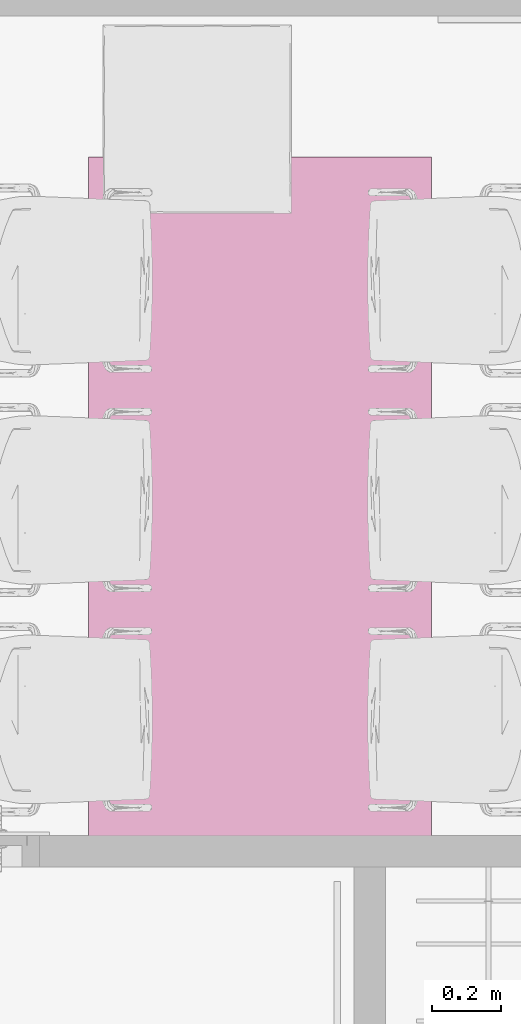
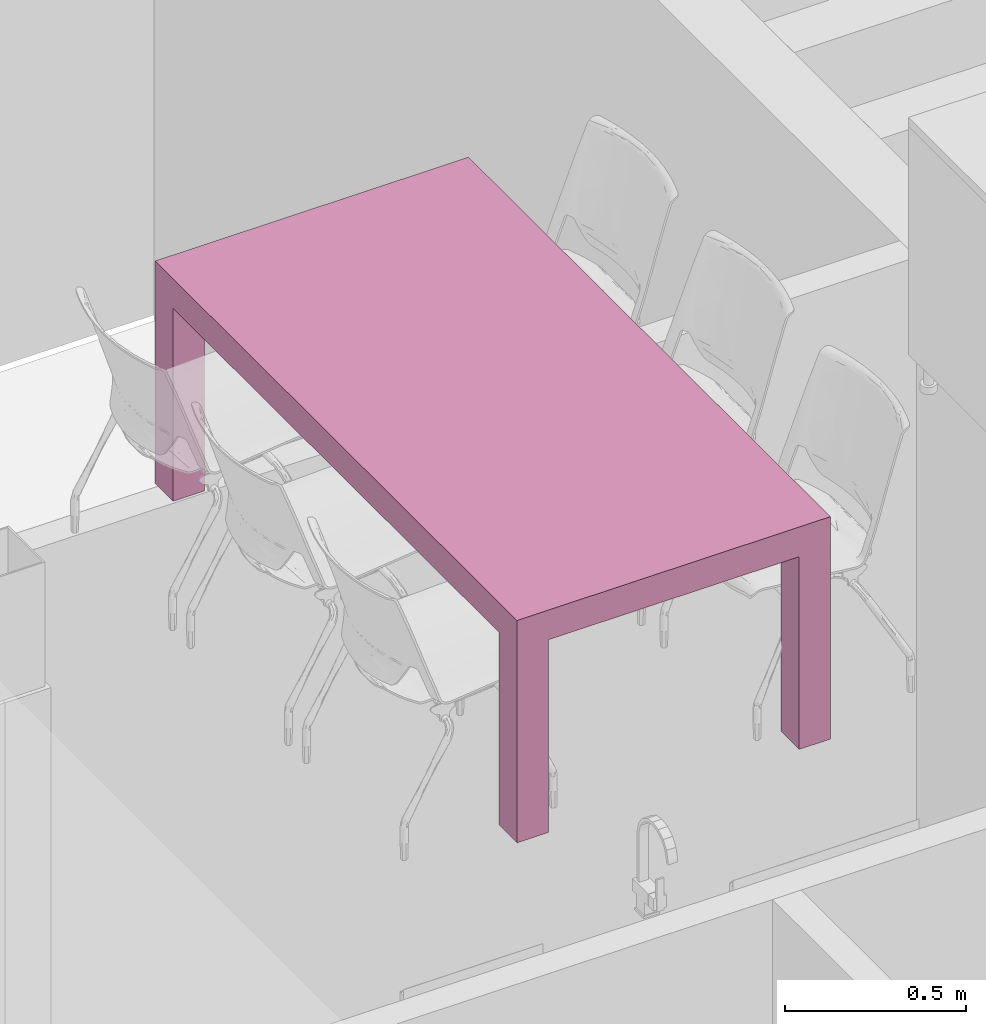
# One storey, part 27 of 68: 1 furnishing.
"""IFC2X3 building model written with IfcOpenShell, lengths in millimetres."""

import ifcopenshell
import ifcopenshell.guid

model = None  # the IFC model being written
_history = None  # IfcOwnerHistory: only IFC2X3 demands one
_inside = {}  # id of a spatial element -> (the spatial element, [elements in it])
_under = {}  # id of a project, library or spatial element -> (it, [spatial elements below it])
_declared = {}  # id of a project -> (the project, [libraries it declares])
_typed = {}  # id of a type object -> (the type object, [elements of that type])
_made_of = {}  # id of a material, layer set ... -> (it, [elements and type objects made of it])


def new_model(schema):
    """Start an empty IFC model of exactly this schema.

    Asked for "IFC4X3", IfcOpenShell would pick the latest addendum, in which some entities
    have other attributes; the version numbers below select the first issue.
    IFC2X3 requires an IfcOwnerHistory on every rooted entity: one is made here for all.
    """
    global model, _history
    if schema == "IFC4X3":
        model = ifcopenshell.file(schema_version=(4, 3, 0, 0))
    else:
        model = ifcopenshell.file(schema=schema)
    _inside.clear()
    _under.clear()
    _declared.clear()
    _typed.clear()
    _made_of.clear()
    _history = None
    if model.schema == "IFC2X3":
        org = make("IfcOrganization", Name="unknown")
        user = make(
            "IfcPersonAndOrganization",
            ThePerson=make("IfcPerson", FamilyName="unknown"),
            TheOrganization=org,
        )
        app = make(
            "IfcApplication",
            ApplicationDeveloper=org,
            Version="unknown",
            ApplicationFullName="unknown",
            ApplicationIdentifier="unknown",
        )
        _history = make(
            "IfcOwnerHistory",
            OwningUser=user,
            OwningApplication=app,
            ChangeAction="ADDED",
            CreationDate=0,
        )
    return model


def make(cls, **values):
    """One entity of the class cls with the attributes given. An attribute that is None is left unset."""
    return model.create_entity(
        cls, **{name: value for name, value in values.items() if value is not None}
    )


def entity(cls, *values):
    """Any entity or typed value of the class cls, its attributes in the order of the schema. None: left unset."""
    e = model.create_entity(cls)
    for i, value in enumerate(values):
        if value is not None:
            e[i] = value
    return e


def rooted(cls, **values):
    """An entity with a GlobalId (a new one), such as an element, a storey or a relation."""
    return make(cls, GlobalId=ifcopenshell.guid.new(), OwnerHistory=_history, **values)


def si_unit(unit_type, name, prefix=None):
    """IfcSIUnit, for example si_unit("LENGTHUNIT", "METRE", prefix="MILLI")."""
    return make("IfcSIUnit", UnitType=unit_type, Prefix=prefix, Name=name)


def converted_unit(unit_type, name, factor, base, dimensions=None, offset=None):
    """IfcConversionBasedUnit, such as the inch: factor (a typed value) times the base unit."""
    return make(
        "IfcConversionBasedUnit"
        if offset is None
        else "IfcConversionBasedUnitWithOffset",
        ConversionOffset=offset,
        Dimensions=None
        if dimensions is None
        else entity("IfcDimensionalExponents", *dimensions),
        UnitType=unit_type,
        Name=name,
        ConversionFactor=make(
            "IfcMeasureWithUnit", ValueComponent=factor, UnitComponent=base
        ),
    )


def assignment(units):
    """IfcUnitAssignment: the units of a project."""
    return None if units is None else make("IfcUnitAssignment", Units=units)


def point(xyz):
    """IfcCartesianPoint."""
    return None if xyz is None else make("IfcCartesianPoint", Coordinates=xyz)


def direction(xyz):
    """IfcDirection."""
    return None if xyz is None else make("IfcDirection", DirectionRatios=xyz)


def frame(location, z_axis=None, x_axis=None):
    """IfcAxis2Placement3D, a coordinate frame: its origin and axes. An axis left out is left unset."""
    return make(
        "IfcAxis2Placement3D",
        Location=point(location),
        Axis=direction(z_axis),
        RefDirection=direction(x_axis),
    )


def origin():
    """The frame at (0, 0, 0) with its axes left unset."""
    return frame((0.0, 0.0, 0.0))


def place(relative_to, where):
    """IfcLocalPlacement: puts the frame where relative to a parent placement (None: the world)."""
    return make(
        "IfcLocalPlacement", PlacementRelTo=relative_to, RelativePlacement=where
    )


def context(
    kind, dimensions, precision=None, world=None, true_north=None, identifier=None
):
    """IfcGeometricRepresentationContext, for example the 3D "Model" context."""
    return make(
        "IfcGeometricRepresentationContext",
        ContextIdentifier=identifier,
        ContextType=kind,
        CoordinateSpaceDimension=dimensions,
        Precision=precision,
        WorldCoordinateSystem=world,
        TrueNorth=true_north,
    )


def subcontext(parent, identifier, kind, view, scale=None):
    """IfcGeometricRepresentationSubContext, for example "Body" below "Model"."""
    return make(
        "IfcGeometricRepresentationSubContext",
        ContextIdentifier=identifier,
        ContextType=kind,
        ParentContext=parent,
        TargetScale=scale,
        TargetView=view,
    )


def project(units=None, contexts=None):
    """IfcProject with its units and contexts."""
    return rooted(
        "IfcProject",
        Name="project",
        RepresentationContexts=contexts,
        UnitsInContext=assignment(units),
    )


def spatial(cls, under=None, at=None, **own):
    """A site, building, storey or space (cls), placed at a placement, below another one or the project."""
    s = rooted(cls, ObjectPlacement=at, **own)
    if under is not None:
        _under.setdefault(under.id(), (under, []))[1].append(s)
    return s


def faces_of(points, faces, orient=None, outer=None):
    """IfcFace entities. A face is a list of loops; a loop is a list of indices into points, from 0.

    orient and outer hold one flag for each loop. By default every Orientation is true, the
    first loop of a face is its IfcFaceOuterBound and the others are IfcFaceBound.
    """
    made = []
    for i, loops in enumerate(faces):
        bounds = []
        for j, loop in enumerate(loops):
            is_outer = j == 0 if outer is None else outer[i][j]
            bounds.append(
                make(
                    "IfcFaceOuterBound" if is_outer else "IfcFaceBound",
                    Bound=make("IfcPolyLoop", Polygon=[points[k] for k in loop]),
                    Orientation=True if orient is None else orient[i][j],
                )
            )
        made.append(make("IfcFace", Bounds=bounds))
    return made


def faceted_brep(points, faces, orient=None, outer=None, voids=None):
    """IfcFacetedBrep: a solid bounded by flat faces; with voids (closed shells), ...WithVoids."""
    shared = [point(p) for p in points]
    hull = make("IfcClosedShell", CfsFaces=faces_of(shared, faces, orient, outer))
    if voids is None:
        return make("IfcFacetedBrep", Outer=hull)
    return make(
        "IfcFacetedBrepWithVoids",
        Outer=hull,
        Voids=[
            make(cls, CfsFaces=faces_of(shared, fs, o, b)) for cls, fs, o, b in voids
        ],
    )


def shape(context_of_items, identifier, shape_type, items):
    """IfcShapeRepresentation: the items that make up one representation, for example the "Body"."""
    return make(
        "IfcShapeRepresentation",
        ContextOfItems=context_of_items,
        RepresentationIdentifier=identifier,
        RepresentationType=shape_type,
        Items=items,
    )


def source(mapping_origin, context_of_items, identifier, shape_type, items):
    """IfcRepresentationMap: a shape defined once, which mapped items show again and again."""
    return make(
        "IfcRepresentationMap",
        MappingOrigin=mapping_origin,
        MappedRepresentation=shape(context_of_items, identifier, shape_type, items),
    )


def transform(
    local_origin,
    x_axis=None,
    y_axis=None,
    z_axis=None,
    scale=None,
    scale2=None,
    scale3=None,
    uniform=True,
):
    """IfcCartesianTransformationOperator3D, or its non-uniform kind. x_axis, y_axis, z_axis: its Axis1, 2, 3."""
    if uniform:
        return make(
            "IfcCartesianTransformationOperator3D",
            Axis1=direction(x_axis),
            Axis2=direction(y_axis),
            LocalOrigin=point(local_origin),
            Scale=scale,
            Axis3=direction(z_axis),
        )
    return make(
        "IfcCartesianTransformationOperator3DnonUniform",
        Axis1=direction(x_axis),
        Axis2=direction(y_axis),
        LocalOrigin=point(local_origin),
        Scale=scale,
        Axis3=direction(z_axis),
        Scale2=scale2,
        Scale3=scale3,
    )


def mapped(mapping_source, mapping_target):
    """IfcMappedItem: shows the shape of a source again, moved by a transform."""
    return make(
        "IfcMappedItem", MappingSource=mapping_source, MappingTarget=mapping_target
    )


def material(Name=None, Category=None):
    """IfcMaterial."""
    return make("IfcMaterial", Name=Name, Category=Category)


def made_of(thing, what):
    """Note that an element or type object is made of a material, layer set ...; save() writes the relation."""
    if what is not None:
        _made_of.setdefault(what.id(), (what, []))[1].append(thing)
    return thing


def type_object(cls, material=None, **own):
    """A type object (cls), such as IfcWallType, which elements share."""
    return made_of(rooted(cls, **own), material)


def type_shapes(of_type, sources):
    """Give a type object the sources (RepresentationMaps) that its elements show as mapped items."""
    of_type.RepresentationMaps = sources


def element(
    cls,
    number,
    at=None,
    inside=None,
    cuts=None,
    type_object=None,
    material=None,
    context=None,
    identifier="Body",
    shape_type=None,
    held_by="IfcProductDefinitionShape",
    body=None,
    shapes=None,
    **own,
):
    """One element of the class cls, such as IfcWall. Its Tag is "e" and its number.

    at: its placement. inside: the storey or other place that contains it. cuts: it is an
    opening in that element (IfcRelVoidsElement). A single representation is given by context,
    identifier, shape_type and body (its items); several are given by shapes. held_by: the class
    of the entity that holds the representations. save() writes the other relations.
    """
    e = rooted(cls, Tag="e%d" % number, ObjectPlacement=at, **own)
    if body is not None:
        shapes = [shape(context, identifier, shape_type, body)]
    if shapes is not None:
        e.Representation = make(held_by, Representations=shapes)
    if inside is not None:
        _inside.setdefault(inside.id(), (inside, []))[1].append(e)
    if cuts is not None:
        rooted(
            "IfcRelVoidsElement", RelatingBuildingElement=cuts, RelatedOpeningElement=e
        )
    if type_object is not None:
        _typed.setdefault(type_object.id(), (type_object, []))[1].append(e)
    return made_of(e, material)


def aggregate(whole, parts):
    """IfcRelAggregates: a whole, such as a stair, and the parts it consists of."""
    return rooted("IfcRelAggregates", RelatingObject=whole, RelatedObjects=parts)


def save(model, path):
    """Write the relations noted so far, then the file.

    IfcRelAggregates (storeys below a building ...), IfcRelContainedInSpatialStructure (elements
    in a storey), IfcRelDefinesByType, IfcRelAssociatesMaterial and IfcRelDeclares: one each for
    every whole, place, type object, material and project.
    """
    for whole, parts in _under.values():
        aggregate(whole, parts)
    for where, things in _inside.values():
        rooted(
            "IfcRelContainedInSpatialStructure",
            RelatedElements=things,
            RelatingStructure=where,
        )
    for kind, things in _typed.values():
        rooted("IfcRelDefinesByType", RelatedObjects=things, RelatingType=kind)
    for what, things in _made_of.values():
        rooted("IfcRelAssociatesMaterial", RelatedObjects=things, RelatingMaterial=what)
    for by, libraries in _declared.values():
        rooted("IfcRelDeclares", RelatingContext=by, RelatedDefinitions=libraries)
    model.write(path)


model = new_model("IFC2X3")

# Units and contexts
model_context = context("Model", 3, precision=0.01, world=origin(), true_north=direction((6.123233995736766e-17, 1.0)))
plan_context = context("Plan", 3, precision=0.01, world=origin(), true_north=direction((6.123233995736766e-17, 1.0)))
body_context = subcontext(model_context, "Body", "Model", "MODEL_VIEW")
ifc_project = project(units=[si_unit("LENGTHUNIT", "METRE", prefix="MILLI"), converted_unit("PLANEANGLEUNIT", "DEGREE", entity("IfcPlaneAngleMeasure", 0.017453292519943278), si_unit("PLANEANGLEUNIT", "RADIAN"), dimensions=[0, 0, 0, 0, 0, 0, 0]), si_unit("AREAUNIT", "SQUARE_METRE")], contexts=[model_context, plan_context])

# Site, building, storey, space
site_placement = place(None, origin())
site = spatial("IfcSite", under=ifc_project, at=site_placement, Name="Default", CompositionType="ELEMENT")
building_placement = place(site_placement, origin())
building = spatial("IfcBuilding", under=site, at=building_placement, CompositionType="ELEMENT")
storey_placement = place(building_placement, frame((0.0, 0.0, 6295.0)))
storey = spatial("IfcBuildingStorey", under=building, at=storey_placement, Name="3K", CompositionType="ELEMENT", Elevation=6294.999999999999)
space_placement = place(storey_placement, origin())
space = spatial("IfcSpace", under=storey, at=space_placement, Name="3-5.2", CompositionType="ELEMENT", InteriorOrExteriorSpace="INTERNAL")

# Furnishing
ifc_material = material(Name="<Unnamed>")
furniture_type = type_object("IfcFurnitureType", Name="HR_Furniture_Table_Generic_v2016-02-11:2000x1000", AssemblyPlace="NOTDEFINED", material=ifc_material)
shared_shape = source(origin(), body_context, "Body", "Brep", [
    faceted_brep([(-500.0, -900.0, 0.0), (-400.0, -900.0, 0.0), (-400.0, -1000.0, 0.0), (-500.0, -1000.0, 0.0), (-400.0, 1000.0, 0.0), (-500.0, 1000.0, 0.0), (-500.0, 1000.0, 750.0), (500.0, 1000.0, 750.0), (500.0, 1000.0, 0.0), (400.0, 1000.0, 0.0), (400.0, 1000.0, 650.0), (-400.0, 1000.0, 650.0), (-500.0, 900.0, 0.0), (-500.0, 900.0, 650.0), (-500.0, -900.0, 650.0), (-500.0, -1000.0, 750.0), (-400.0, 900.0, 0.0), (-400.0, 900.0, 650.0), (400.0, 900.0, 0.0), (400.0, 900.0, 650.0), (500.0, 900.0, 0.0), (500.0, 900.0, 650.0), (500.0, -1000.0, 750.0), (500.0, -1000.0, 0.0), (500.0, -900.0, 0.0), (500.0, -900.0, 650.0), (400.0, -900.0, 0.0), (400.0, -900.0, 650.0), (400.0, -1000.0, 0.0), (400.0, -1000.0, 650.0), (-400.0, -1000.0, 650.0), (-400.0, -900.0, 650.0)], [[[0, 1, 2, 3]], [[4, 5, 6, 7, 8, 9, 10, 11]], [[6, 5, 12, 13, 14, 0, 3, 15]], [[12, 16, 17, 13]], [[16, 4, 11, 17]], [[9, 18, 19, 10]], [[18, 20, 21, 19]], [[20, 8, 7, 22, 23, 24, 25, 21]], [[24, 26, 27, 25]], [[26, 28, 29, 27]], [[28, 23, 22, 15, 3, 2, 30, 29]], [[2, 1, 31, 30]], [[1, 0, 14, 31]], [[7, 6, 15, 22]], [[11, 10, 19, 21, 25, 27, 29, 30, 31, 14, 13, 17]], [[4, 16, 12, 5]], [[8, 20, 18, 9]], [[24, 23, 28, 26]]]),
])
type_shapes(furniture_type, [shared_shape])
furnishing_placement = place(space_placement, frame((978.5455849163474, 9776.042660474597, 3170.000076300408)))
element("IfcFurnishingElement", 1, at=furnishing_placement, inside=space, type_object=furniture_type, material=ifc_material, Name="HR_Furniture_Table_Generic_v2016-02-11:2000x1000", ObjectType="HR_Furniture_Table_Generic_v2016-02-11:2000x1000", context=body_context, shape_type="MappedRepresentation", body=[
    mapped(shared_shape, transform((0.0, 0.0, 0.0), scale=1.0)),
])

save(model, "model.ifc")
